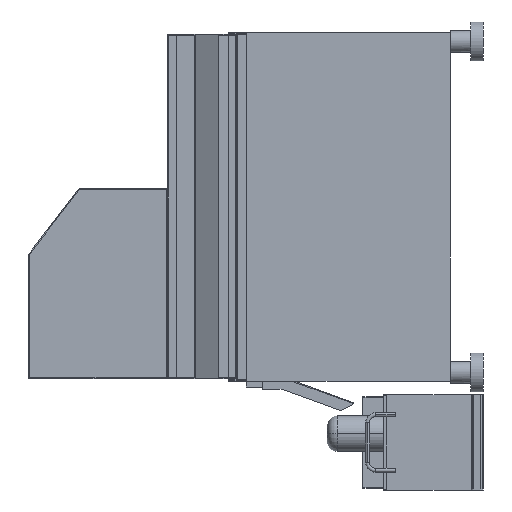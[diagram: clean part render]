
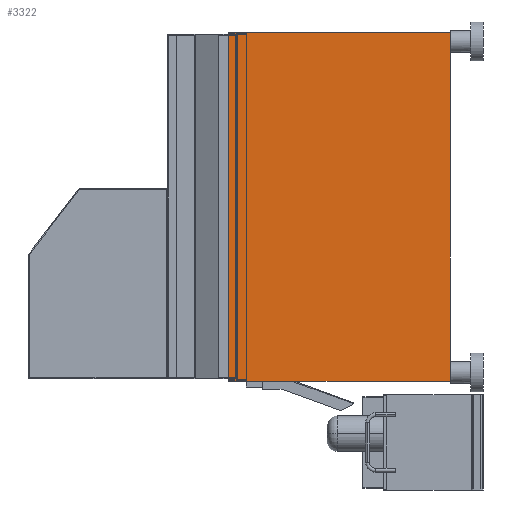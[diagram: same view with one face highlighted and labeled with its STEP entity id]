
A CAD part, left-side view. The second image highlights one B-rep face of the part: STEP entity #3322.
In plain terms, the highlighted planar face has unit normal (-1, 0, 0).
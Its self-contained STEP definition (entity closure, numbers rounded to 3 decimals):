
#355 = CARTESIAN_POINT ( 'NONE',  ( -330., 643., 440. ) ) ;
#373 = CARTESIAN_POINT ( 'NONE',  ( -330., 83., 402.348 ) ) ;
#588 = CARTESIAN_POINT ( 'NONE',  ( -330., 643., -440. ) ) ;
#593 = CARTESIAN_POINT ( 'NONE',  ( -330., 83., 440. ) ) ;
#691 = CARTESIAN_POINT ( 'NONE',  ( -330., 83., -440. ) ) ;
#974 = CARTESIAN_POINT ( 'NONE',  ( -330., 83., 433.652 ) ) ;
#1003 = CARTESIAN_POINT ( 'NONE',  ( -330., 83., -402.348 ) ) ;
#1012 = CARTESIAN_POINT ( 'NONE',  ( -330., 83., -433.652 ) ) ;
#1369 = AXIS2_PLACEMENT_3D ( 'NONE', #10770, #10775, #10776 ) ;
#1926 = EDGE_CURVE ( 'NONE', #12228, #11746, #7100, .T. ) ;
#1931 = EDGE_CURVE ( 'NONE', #7755, #11746, #7098, .T. ) ;
#1933 = EDGE_CURVE ( 'NONE', #12263, #12254, #7095, .T. ) ;
#1944 = EDGE_CURVE ( 'NONE', #7775, #12228, #6940, .T. ) ;
#1959 = EDGE_CURVE ( 'NONE', #12254, #7775, #6964, .T. ) ;
#1960 = EDGE_CURVE ( 'NONE', #11934, #12263, #6965, .T. ) ;
#1986 = EDGE_CURVE ( 'NONE', #11741, #7755, #7007, .T. ) ;
#2190 = EDGE_CURVE ( 'NONE', #11741, #11934, #6409, .T. ) ;
#3322 = ADVANCED_FACE ( 'NONE', ( #4384 ), #10769, .F. ) ;
#3843 = CARTESIAN_POINT ( 'NONE',  ( -330., 83., 440. ) ) ;
#3844 = DIRECTION ( 'NONE',  ( 0., 0., 1. ) ) ;
#3852 = CARTESIAN_POINT ( 'NONE',  ( -330., 83., 440. ) ) ;
#3853 = DIRECTION ( 'NONE',  ( 0., 0., 1. ) ) ;
#3907 = CARTESIAN_POINT ( 'NONE',  ( -330., 643., 440. ) ) ;
#3912 = DIRECTION ( 'NONE',  ( 0., 0., 1. ) ) ;
#4384 = FACE_OUTER_BOUND ( 'NONE', #10214, .T. ) ;
#5726 = CARTESIAN_POINT ( 'NONE',  ( -330., 643., -440. ) ) ;
#5727 = DIRECTION ( 'NONE',  ( 0., -1., 0. ) ) ;
#6409 = LINE ( 'NONE', #5726, #6493 ) ;
#6493 = VECTOR ( 'NONE', #5727, 1000. ) ;
#6940 = LINE ( 'NONE', #13506, #6943 ) ;
#6943 = VECTOR ( 'NONE', #13502, 1000. ) ;
#6964 = LINE ( 'NONE', #3843, #6966 ) ;
#6965 = LINE ( 'NONE', #3852, #6968 ) ;
#6966 = VECTOR ( 'NONE', #3844, 1000. ) ;
#6968 = VECTOR ( 'NONE', #3853, 1000. ) ;
#7001 = VECTOR ( 'NONE', #3912, 1000. ) ;
#7007 = LINE ( 'NONE', #3907, #7001 ) ;
#7021 = VECTOR ( 'NONE', #13467, 1000. ) ;
#7092 = VECTOR ( 'NONE', #13480, 1000. ) ;
#7095 = LINE ( 'NONE', #13482, #7021 ) ;
#7098 = LINE ( 'NONE', #13479, #7092 ) ;
#7100 = LINE ( 'NONE', #13466, #7103 ) ;
#7103 = VECTOR ( 'NONE', #13468, 1000. ) ;
#7755 = VERTEX_POINT ( 'NONE', #355 ) ;
#7775 = VERTEX_POINT ( 'NONE', #373 ) ;
#10214 = EDGE_LOOP ( 'NONE', ( #11849, #11848, #11847, #11846, #11855, #11854, #11853, #11852 ) ) ;
#10769 = PLANE ( 'NONE',  #1369 ) ;
#10770 = CARTESIAN_POINT ( 'NONE',  ( -330., 643., 440. ) ) ;
#10775 = DIRECTION ( 'NONE',  ( 1., 0., 0. ) ) ;
#10776 = DIRECTION ( 'NONE',  ( 0., 0., -1. ) ) ;
#11741 = VERTEX_POINT ( 'NONE', #588 ) ;
#11746 = VERTEX_POINT ( 'NONE', #593 ) ;
#11846 = ORIENTED_EDGE ( 'NONE', *, *, #1944, .T. ) ;
#11847 = ORIENTED_EDGE ( 'NONE', *, *, #1959, .T. ) ;
#11848 = ORIENTED_EDGE ( 'NONE', *, *, #1933, .T. ) ;
#11849 = ORIENTED_EDGE ( 'NONE', *, *, #1960, .T. ) ;
#11852 = ORIENTED_EDGE ( 'NONE', *, *, #2190, .T. ) ;
#11853 = ORIENTED_EDGE ( 'NONE', *, *, #1986, .F. ) ;
#11854 = ORIENTED_EDGE ( 'NONE', *, *, #1931, .F. ) ;
#11855 = ORIENTED_EDGE ( 'NONE', *, *, #1926, .T. ) ;
#11934 = VERTEX_POINT ( 'NONE', #691 ) ;
#12228 = VERTEX_POINT ( 'NONE', #974 ) ;
#12254 = VERTEX_POINT ( 'NONE', #1003 ) ;
#12263 = VERTEX_POINT ( 'NONE', #1012 ) ;
#13466 = CARTESIAN_POINT ( 'NONE',  ( -330., 83., 440. ) ) ;
#13467 = DIRECTION ( 'NONE',  ( 0., 0., 1. ) ) ;
#13468 = DIRECTION ( 'NONE',  ( 0., 0., 1. ) ) ;
#13479 = CARTESIAN_POINT ( 'NONE',  ( -330., 643., 440. ) ) ;
#13480 = DIRECTION ( 'NONE',  ( 0., -1., 0. ) ) ;
#13482 = CARTESIAN_POINT ( 'NONE',  ( -330., 83., 440. ) ) ;
#13502 = DIRECTION ( 'NONE',  ( 0., 0., 1. ) ) ;
#13506 = CARTESIAN_POINT ( 'NONE',  ( -330., 83., 440. ) ) ;
